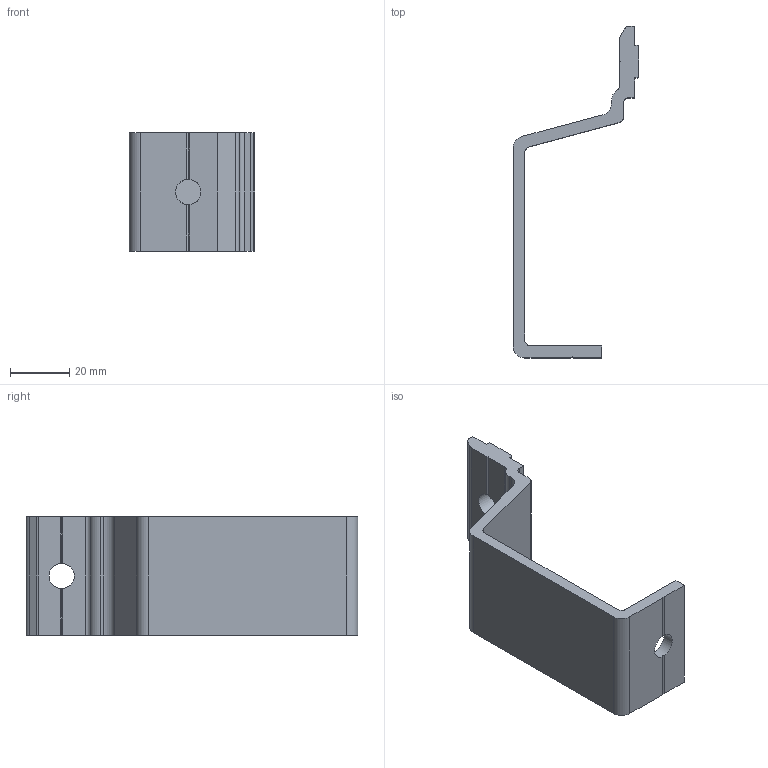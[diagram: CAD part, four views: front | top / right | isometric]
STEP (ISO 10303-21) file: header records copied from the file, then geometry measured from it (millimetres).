
FILE_DESCRIPTION(/* description */ ('BEAM SUPPORT BRACKET FOR PROFILE 40x40 FOR ALL CONVEYORPROFILES'),/* implementation_level */ '2;1');
FILE_NAME(/* name */ '\\carryline.intra\privat\users\mathias\Desktop\Tillfälliga filer\100-1220.stp',/* time_stamp */ '2018-11-20T07:09:31+01:00',/* author */ ('PL'),/* organization */ ('CARRYLINE'),/* preprocessor_version */ 'ST-DEVELOPER v17',/* originating_system */ 'Autodesk Inventor 2018',/* authorisation */ '');
FILE_SCHEMA (('AUTOMOTIVE_DESIGN { 1 0 10303 214 3 1 1 }'));
Length unit declared in the file: millimetre
Products named in the file (1): 100-1220
Bounding box: 42.5 x 112 x 40 mm (x, y, z)
Volume: 27149.7 mm3; surface area: 14869.4 mm2
Topology: 1 solids, 1 shells, 45 faces, 137 edges, 92 vertices
Faces by surface type: plane 30, cylinder 15
Full cylindrical faces by diameter (mm): 8.5 x2
Entity records: 1598 total; most frequent: CARTESIAN_POINT 275, ORIENTED_EDGE 274, DIRECTION 273, EDGE_CURVE 137, LINE 93, VECTOR 93, VERTEX_POINT 92, AXIS2_PLACEMENT_3D 90
